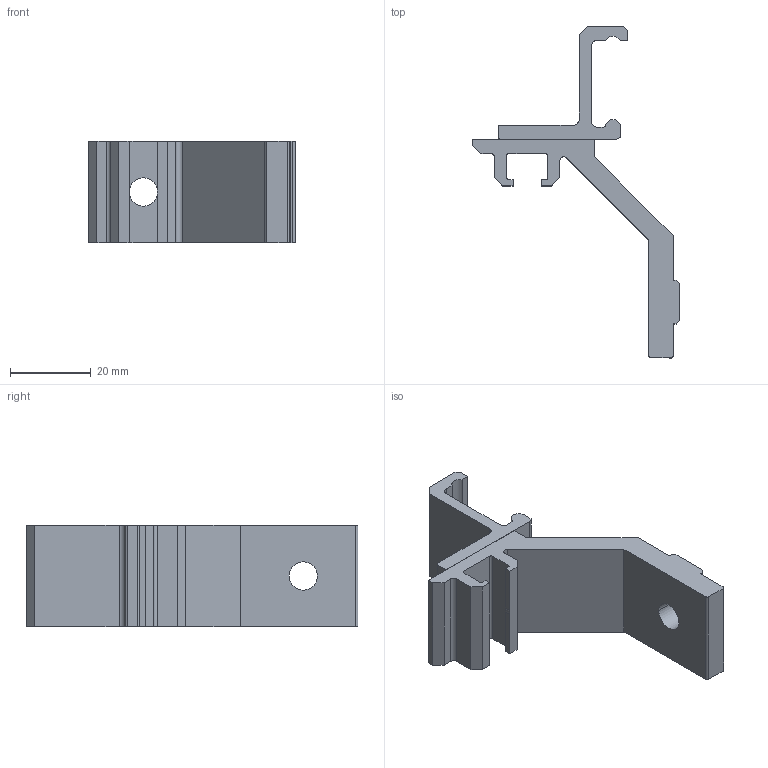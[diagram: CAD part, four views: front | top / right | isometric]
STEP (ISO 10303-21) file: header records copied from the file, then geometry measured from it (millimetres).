
FILE_DESCRIPTION (( 'STEP AP214' ), '1' );
FILE_NAME ('FABER - FGRA 26X9X45.STEP', '2017-04-05T12:11:42', ( '' ), ( '' ), 'SwSTEP 2.0', 'SolidWorks 2016', '' );
FILE_SCHEMA (( 'AUTOMOTIVE_DESIGN' ));
Length unit declared in the file: millimetre
Products named in the file (3): FABER - FGRA 26X9X45; Support inférieur FGRA-26x9x45; Partie sup. FGRA-8x9x45 et 26x9x45
Assembly tree (2 placements, depth 2):
  FABER - FGRA 26X9X45
    Support inférieur FGRA-26x9x45
    Partie sup. FGRA-8x9x45 et 26x9x45
Bounding box: 51 x 82 x 25 mm (x, y, z)
Volume: 16800.3 mm3; surface area: 10153.1 mm2
Topology: 2 solids, 2 shells, 76 faces, 216 edges, 144 vertices
Faces by surface type: plane 50, cylinder 26
Entity records: 2594 total; most frequent: CARTESIAN_POINT 447, ORIENTED_EDGE 432, DIRECTION 428, EDGE_CURVE 216, VECTOR 162, LINE 162, VERTEX_POINT 144, AXIS2_PLACEMENT_3D 133
